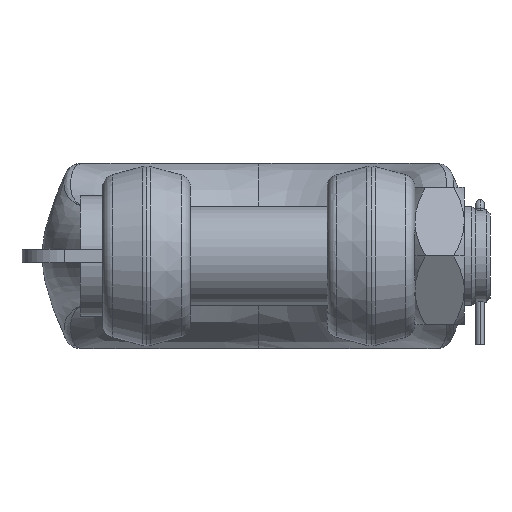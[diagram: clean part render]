
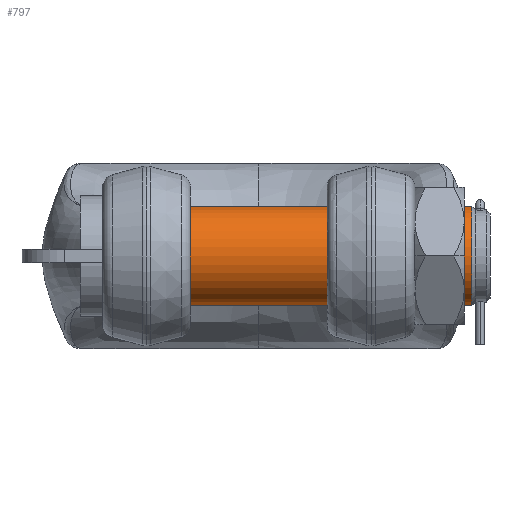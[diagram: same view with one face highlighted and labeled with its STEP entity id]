
A CAD part, front view. The second image highlights one B-rep face of the part: STEP entity #797.
In plain terms, the highlighted cylindrical face has radius 90 mm (diameter 180 mm), a partial arc.
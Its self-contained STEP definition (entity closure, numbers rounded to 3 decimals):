
#797=ADVANCED_FACE('',(#2078),#2079,.T.);
#2078=FACE_OUTER_BOUND('',#3902,.T.);
#2079=CYLINDRICAL_SURFACE('',#3903,90.0);
#3902=EDGE_LOOP('',(#79066,#79067,#79068,#79069));
#3903=AXIS2_PLACEMENT_3D('',#79070,#79071,#79072);
#79066=ORIENTED_EDGE('',*,*,#83405,.T.);
#79067=ORIENTED_EDGE('',*,*,#83416,.T.);
#79068=ORIENTED_EDGE('',*,*,#83407,.T.);
#79069=ORIENTED_EDGE('',*,*,#83413,.T.);
#79070=CARTESIAN_POINT('',(-285.0,0.0,0.0));
#79071=DIRECTION('',(-1.0,0.0,0.0));
#79072=DIRECTION('',(0.0,0.0,-1.0));
#83405=EDGE_CURVE('',#85593,#85589,#85594,.T.);
#83407=EDGE_CURVE('',#85587,#85595,#85597,.T.);
#83413=EDGE_CURVE('',#85595,#85593,#85605,.T.);
#83416=EDGE_CURVE('',#85589,#85587,#85608,.T.);
#85587=VERTEX_POINT('',#88952);
#85589=VERTEX_POINT('',#88955);
#85593=VERTEX_POINT('',#88960);
#85594=LINE('',#88961,#88962);
#85595=VERTEX_POINT('',#88963);
#85597=LINE('',#88965,#88966);
#85605=CIRCLE('',#88974,90.0);
#85608=CIRCLE('',#88977,90.0);
#88952=CARTESIAN_POINT('',(389.0,0.,90.0));
#88955=CARTESIAN_POINT('',(389.0,0.,-90.0));
#88960=CARTESIAN_POINT('',(-281.0,0.0,-90.0));
#88961=CARTESIAN_POINT('',(54.0,0.,-90.0));
#88962=VECTOR('',#126765,1.0);
#88963=CARTESIAN_POINT('',(-281.0,0.,90.0));
#88965=CARTESIAN_POINT('',(54.0,0.,90.0));
#88966=VECTOR('',#126769,1.0);
#88974=AXIS2_PLACEMENT_3D('',#126779,#126780,#126781);
#88977=AXIS2_PLACEMENT_3D('',#126785,#126786,#126787);
#126765=DIRECTION('',(1.0,-0.0,-0.0));
#126769=DIRECTION('',(-1.0,0.0,0.0));
#126779=CARTESIAN_POINT('',(-281.0,0.0,0.0));
#126780=DIRECTION('',(1.0,0.0,0.0));
#126781=DIRECTION('',(0.0,0.0,-1.0));
#126785=CARTESIAN_POINT('',(389.0,0.0,0.0));
#126786=DIRECTION('',(-1.0,0.0,0.0));
#126787=DIRECTION('',(0.0,0.0,-1.0));
